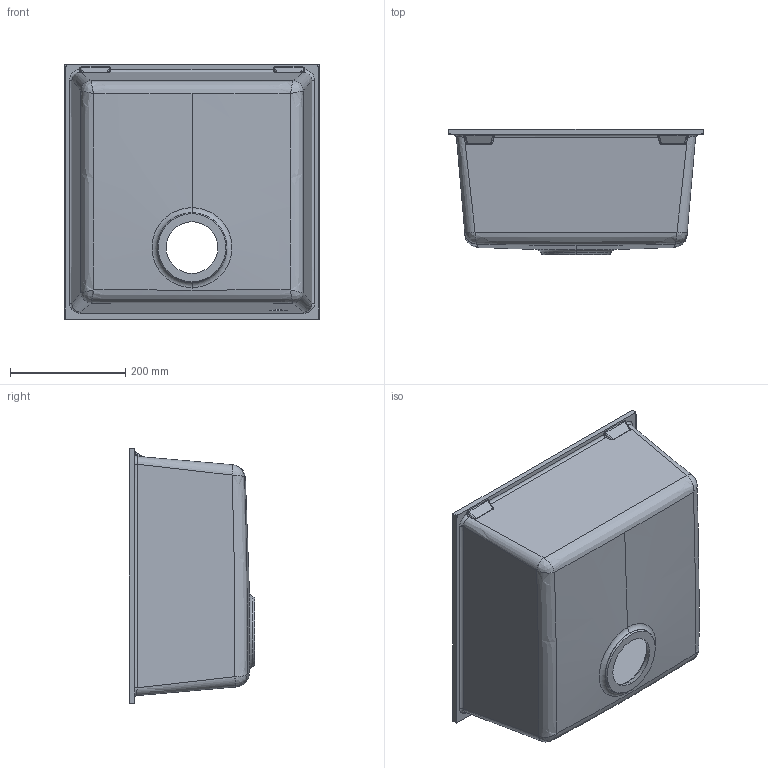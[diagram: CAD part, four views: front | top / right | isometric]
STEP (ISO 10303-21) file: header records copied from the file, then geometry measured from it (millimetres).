
FILE_DESCRIPTION (( 'STEP AP203' ), '1' );
FILE_NAME ('3d_step_q102_bso.STEP', '2020-07-10T12:59:30', ( 'utente1' ), ( '' ), 'SwSTEP 2.0', 'SolidWorks 2013', '' );
FILE_SCHEMA (( 'CONFIG_CONTROL_DESIGN' ));
Length unit declared in the file: millimetre
Products named in the file (1): 3d_step_q102_bso
Bounding box: 440 x 216.7 x 440 mm (x, y, z)
Volume: 3649883.1 mm3; surface area: 918265.5 mm2
Topology: 1 solids, 1 shells, 131 faces, 316 edges, 180 vertices
Faces by surface type: bspline 64, cylinder 24, plane 23, cone 10, torus 10
Entity records: 7766 total; most frequent: CARTESIAN_POINT 5220, ORIENTED_EDGE 616, DIRECTION 383, EDGE_CURVE 308, VERTEX_POINT 180, AXIS2_PLACEMENT_3D 156, EDGE_LOOP 136, FACE_OUTER_BOUND 131
